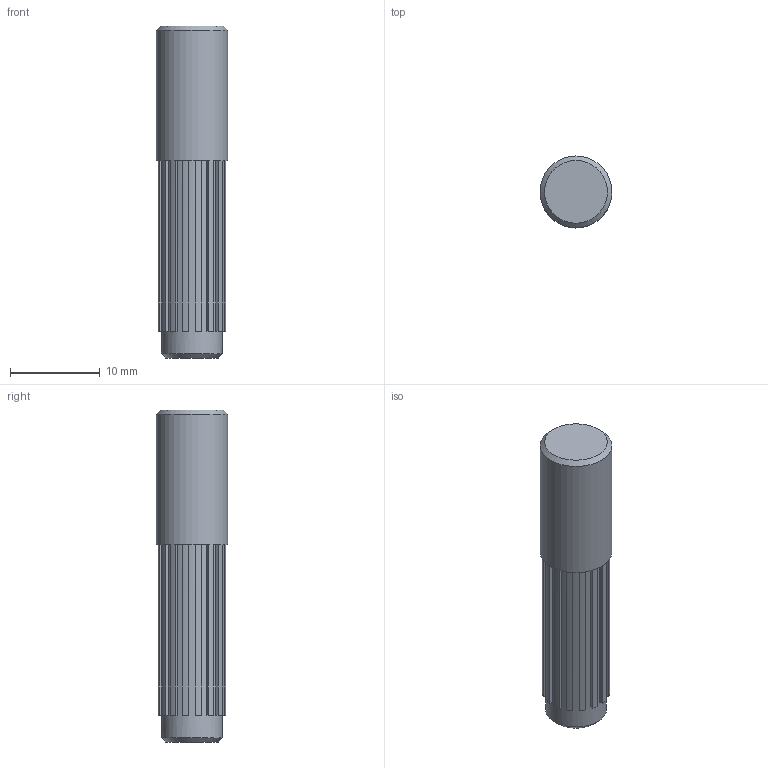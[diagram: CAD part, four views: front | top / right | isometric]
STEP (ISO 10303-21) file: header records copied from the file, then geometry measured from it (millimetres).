
FILE_DESCRIPTION (( 'STEP AP214' ), '1' );
FILE_NAME ('N30110.step', '2024-12-03T16:26:56', ( '' ), ( '' ), 'SwSTEP 2.0', 'SolidWorks 2023', '' );
FILE_SCHEMA (( 'AUTOMOTIVE_DESIGN' ));
Length unit declared in the file: millimetre
Products named in the file (1): N30110
Bounding box: 8 x 8 x 37 mm (x, y, z)
Volume: 1632.8 mm3; surface area: 1200.1 mm2
Topology: 1 solids, 1 shells, 71 faces, 202 edges, 134 vertices
Faces by surface type: plane 51, cylinder 18, cone 2
Full cylindrical faces by diameter (mm): 6.8 x1, 8 x1
Entity records: 2323 total; most frequent: DIRECTION 410, CARTESIAN_POINT 402, ORIENTED_EDGE 394, EDGE_CURVE 197, AXIS2_PLACEMENT_3D 141, VERTEX_POINT 133, LINE 128, VECTOR 128
